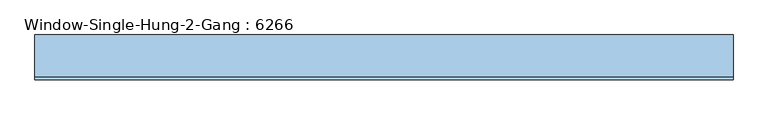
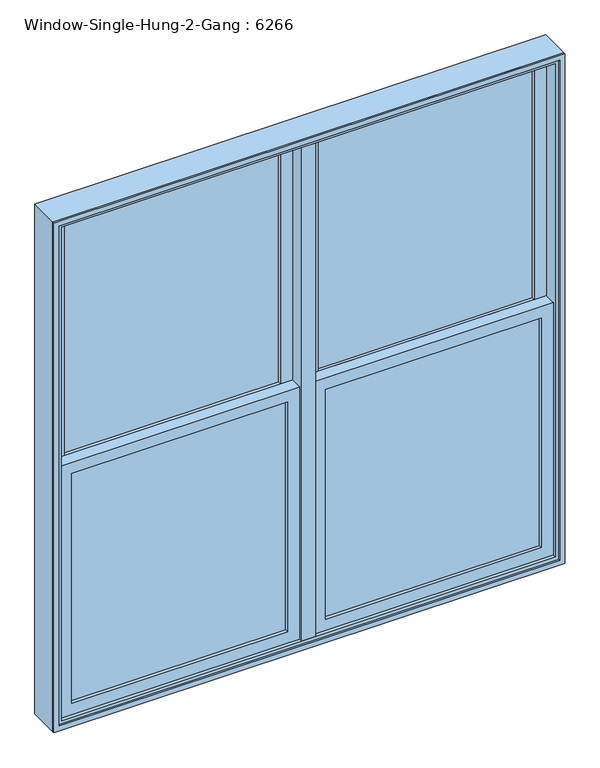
"""IFC4 building model written with IfcOpenShell, lengths in millimetres: window geometry, Window-Single-Hung-2-Gang : 6266."""

import ifcopenshell
import ifcopenshell.guid

model = None  # the IFC model being written
_history = None  # IfcOwnerHistory: only IFC2X3 demands one
_inside = {}  # id of a spatial element -> (the spatial element, [elements in it])
_under = {}  # id of a project, library or spatial element -> (it, [spatial elements below it])
_declared = {}  # id of a project -> (the project, [libraries it declares])
_typed = {}  # id of a type object -> (the type object, [elements of that type])
_made_of = {}  # id of a material, layer set ... -> (it, [elements and type objects made of it])


def new_model(schema):
    """Start an empty IFC model of exactly this schema.

    Asked for "IFC4X3", IfcOpenShell would pick the latest addendum, in which some entities
    have other attributes; the version numbers below select the first issue.
    IFC2X3 requires an IfcOwnerHistory on every rooted entity: one is made here for all.
    """
    global model, _history
    if schema == "IFC4X3":
        model = ifcopenshell.file(schema_version=(4, 3, 0, 0))
    else:
        model = ifcopenshell.file(schema=schema)
    _inside.clear()
    _under.clear()
    _declared.clear()
    _typed.clear()
    _made_of.clear()
    _history = None
    if model.schema == "IFC2X3":
        org = make("IfcOrganization", Name="unknown")
        user = make(
            "IfcPersonAndOrganization",
            ThePerson=make("IfcPerson", FamilyName="unknown"),
            TheOrganization=org,
        )
        app = make(
            "IfcApplication",
            ApplicationDeveloper=org,
            Version="unknown",
            ApplicationFullName="unknown",
            ApplicationIdentifier="unknown",
        )
        _history = make(
            "IfcOwnerHistory",
            OwningUser=user,
            OwningApplication=app,
            ChangeAction="ADDED",
            CreationDate=0,
        )
    return model


def make(cls, **values):
    """One entity of the class cls with the attributes given. An attribute that is None is left unset."""
    return model.create_entity(
        cls, **{name: value for name, value in values.items() if value is not None}
    )


def rooted(cls, **values):
    """An entity with a GlobalId (a new one), such as an element, a storey or a relation."""
    return make(cls, GlobalId=ifcopenshell.guid.new(), OwnerHistory=_history, **values)


def si_unit(unit_type, name, prefix=None):
    """IfcSIUnit, for example si_unit("LENGTHUNIT", "METRE", prefix="MILLI")."""
    return make("IfcSIUnit", UnitType=unit_type, Prefix=prefix, Name=name)


def assignment(units):
    """IfcUnitAssignment: the units of a project."""
    return None if units is None else make("IfcUnitAssignment", Units=units)


def point(xyz):
    """IfcCartesianPoint."""
    return None if xyz is None else make("IfcCartesianPoint", Coordinates=xyz)


def direction(xyz):
    """IfcDirection."""
    return None if xyz is None else make("IfcDirection", DirectionRatios=xyz)


def frame(location, z_axis=None, x_axis=None):
    """IfcAxis2Placement3D, a coordinate frame: its origin and axes. An axis left out is left unset."""
    return make(
        "IfcAxis2Placement3D",
        Location=point(location),
        Axis=direction(z_axis),
        RefDirection=direction(x_axis),
    )


def origin():
    """The frame at (0, 0, 0) with its axes left unset."""
    return frame((0.0, 0.0, 0.0))


def place(relative_to, where):
    """IfcLocalPlacement: puts the frame where relative to a parent placement (None: the world)."""
    return make(
        "IfcLocalPlacement", PlacementRelTo=relative_to, RelativePlacement=where
    )


def context(
    kind, dimensions, precision=None, world=None, true_north=None, identifier=None
):
    """IfcGeometricRepresentationContext, for example the 3D "Model" context."""
    return make(
        "IfcGeometricRepresentationContext",
        ContextIdentifier=identifier,
        ContextType=kind,
        CoordinateSpaceDimension=dimensions,
        Precision=precision,
        WorldCoordinateSystem=world,
        TrueNorth=true_north,
    )


def project(units=None, contexts=None):
    """IfcProject with its units and contexts."""
    return rooted(
        "IfcProject",
        Name="project",
        RepresentationContexts=contexts,
        UnitsInContext=assignment(units),
    )


def spatial(cls, under=None, at=None, **own):
    """A site, building, storey or space (cls), placed at a placement, below another one or the project."""
    s = rooted(cls, ObjectPlacement=at, **own)
    if under is not None:
        _under.setdefault(under.id(), (under, []))[1].append(s)
    return s


def polyline(points):
    """IfcPolyline through the points."""
    return make("IfcPolyline", Points=[point(p) for p in points])


def outline(outer, holes=None, kind="AREA"):
    """IfcArbitraryClosedProfileDef: a profile drawn as a closed curve; with holes, ...WithVoids."""
    if holes is None:
        return make("IfcArbitraryClosedProfileDef", ProfileType=kind, OuterCurve=outer)
    return make(
        "IfcArbitraryProfileDefWithVoids",
        ProfileType=kind,
        OuterCurve=outer,
        InnerCurves=holes,
    )


def extrude(swept, where, along, depth):
    """IfcExtrudedAreaSolid: the profile swept, set in the frame where, extruded along a direction by depth."""
    return make(
        "IfcExtrudedAreaSolid",
        SweptArea=swept,
        Position=where,
        ExtrudedDirection=direction(along),
        Depth=depth,
    )


def shape(context_of_items, identifier, shape_type, items):
    """IfcShapeRepresentation: the items that make up one representation, for example the "Body"."""
    return make(
        "IfcShapeRepresentation",
        ContextOfItems=context_of_items,
        RepresentationIdentifier=identifier,
        RepresentationType=shape_type,
        Items=items,
    )


def source(mapping_origin, context_of_items, identifier, shape_type, items):
    """IfcRepresentationMap: a shape defined once, which mapped items show again and again."""
    return make(
        "IfcRepresentationMap",
        MappingOrigin=mapping_origin,
        MappedRepresentation=shape(context_of_items, identifier, shape_type, items),
    )


def transform(
    local_origin,
    x_axis=None,
    y_axis=None,
    z_axis=None,
    scale=None,
    scale2=None,
    scale3=None,
    uniform=True,
):
    """IfcCartesianTransformationOperator3D, or its non-uniform kind. x_axis, y_axis, z_axis: its Axis1, 2, 3."""
    if uniform:
        return make(
            "IfcCartesianTransformationOperator3D",
            Axis1=direction(x_axis),
            Axis2=direction(y_axis),
            LocalOrigin=point(local_origin),
            Scale=scale,
            Axis3=direction(z_axis),
        )
    return make(
        "IfcCartesianTransformationOperator3DnonUniform",
        Axis1=direction(x_axis),
        Axis2=direction(y_axis),
        LocalOrigin=point(local_origin),
        Scale=scale,
        Axis3=direction(z_axis),
        Scale2=scale2,
        Scale3=scale3,
    )


def mapped(mapping_source, mapping_target):
    """IfcMappedItem: shows the shape of a source again, moved by a transform."""
    return make(
        "IfcMappedItem", MappingSource=mapping_source, MappingTarget=mapping_target
    )


def made_of(thing, what):
    """Note that an element or type object is made of a material, layer set ...; save() writes the relation."""
    if what is not None:
        _made_of.setdefault(what.id(), (what, []))[1].append(thing)
    return thing


def element(
    cls,
    number,
    at=None,
    inside=None,
    cuts=None,
    type_object=None,
    material=None,
    context=None,
    identifier="Body",
    shape_type=None,
    held_by="IfcProductDefinitionShape",
    body=None,
    shapes=None,
    **own,
):
    """One element of the class cls, such as IfcWall. Its Tag is "e" and its number.

    at: its placement. inside: the storey or other place that contains it. cuts: it is an
    opening in that element (IfcRelVoidsElement). A single representation is given by context,
    identifier, shape_type and body (its items); several are given by shapes. held_by: the class
    of the entity that holds the representations. save() writes the other relations.
    """
    e = rooted(cls, Tag="e%d" % number, ObjectPlacement=at, **own)
    if body is not None:
        shapes = [shape(context, identifier, shape_type, body)]
    if shapes is not None:
        e.Representation = make(held_by, Representations=shapes)
    if inside is not None:
        _inside.setdefault(inside.id(), (inside, []))[1].append(e)
    if cuts is not None:
        rooted(
            "IfcRelVoidsElement", RelatingBuildingElement=cuts, RelatedOpeningElement=e
        )
    if type_object is not None:
        _typed.setdefault(type_object.id(), (type_object, []))[1].append(e)
    return made_of(e, material)


def aggregate(whole, parts):
    """IfcRelAggregates: a whole, such as a stair, and the parts it consists of."""
    return rooted("IfcRelAggregates", RelatingObject=whole, RelatedObjects=parts)


def save(model, path):
    """Write the relations noted so far, then the file.

    IfcRelAggregates (storeys below a building ...), IfcRelContainedInSpatialStructure (elements
    in a storey), IfcRelDefinesByType, IfcRelAssociatesMaterial and IfcRelDeclares: one each for
    every whole, place, type object, material and project.
    """
    for whole, parts in _under.values():
        aggregate(whole, parts)
    for where, things in _inside.values():
        rooted(
            "IfcRelContainedInSpatialStructure",
            RelatedElements=things,
            RelatingStructure=where,
        )
    for kind, things in _typed.values():
        rooted("IfcRelDefinesByType", RelatedObjects=things, RelatingType=kind)
    for what, things in _made_of.values():
        rooted("IfcRelAssociatesMaterial", RelatedObjects=things, RelatingMaterial=what)
    for by, libraries in _declared.values():
        rooted("IfcRelDeclares", RelatingContext=by, RelatedDefinitions=libraries)
    model.write(path)


def window_single_hung_2_gang_6266_7d1e7603(model_context):
    return source(origin(), model_context, "Body", "SweptSolid", [
        extrude(outline(polyline([(-69.85, 34.925), (-69.85, 28.575), (-863.6, 28.575), (-863.6, 34.925), (-69.85, 34.925)])), frame((0.0, 0.0, 1927.225), z_axis=(0.0, 0.0, 1.0), x_axis=(1.0, 0.0, 0.0)), (0.0, 0.0, 1.0), 892.175),
        extrude(outline(polyline([(-69.85, 22.225), (-69.85, 15.875), (-863.6, 15.875), (-863.6, 22.225), (-69.85, 22.225)])), frame((0.0, 0.0, 1927.225), z_axis=(0.0, 0.0, 1.0), x_axis=(1.0, 0.0, 0.0)), (0.0, 0.0, 1.0), 892.175),
        extrude(outline(polyline([(-69.85, -9.525), (-69.85, -15.875), (-863.6, -15.875), (-863.6, -9.525), (-69.85, -9.525)])), frame((0.0, 0.0, 990.6), z_axis=(0.0, 0.0, 1.0), x_axis=(1.0, 0.0, 0.0)), (0.0, 0.0, 1.0), 892.175),
        extrude(outline(polyline([(-69.85, -22.225), (-69.85, -28.575), (-863.6, -28.575), (-863.6, -22.225), (-69.85, -22.225)])), frame((0.0, 0.0, 990.6), z_axis=(0.0, 0.0, 1.0), x_axis=(1.0, 0.0, 0.0)), (0.0, 0.0, 1.0), 892.175),
        extrude(outline(polyline([(946.15, -25.4), (1927.225, -25.4), (1927.225, -908.05), (946.15, -908.05), (946.15, -25.4)]), holes=[polyline([(990.6, -69.85), (990.6, -863.6), (1882.775, -863.6), (1882.775, -69.85), (990.6, -69.85)])]), frame((0.0, -41.275, 0.0), z_axis=(0.0, 1.0, 0.0), x_axis=(0.0, 0.0, 1.0)), (0.0, 0.0, 1.0), 44.45),
        extrude(outline(polyline([(1882.775, -25.4), (2863.85, -25.4), (2863.85, -908.05), (1882.775, -908.05), (1882.775, -25.4)]), holes=[polyline([(1927.225, -69.85), (1927.225, -863.6), (2819.4, -863.6), (2819.4, -69.85), (1927.225, -69.85)])]), frame((0.0, 3.175, 0.0), z_axis=(0.0, 1.0, 0.0), x_axis=(0.0, 0.0, 1.0)), (0.0, 0.0, 1.0), 44.45),
        extrude(outline(polyline([(863.6, 34.925), (863.6, 28.575), (69.85, 28.575), (69.85, 34.925), (863.6, 34.925)])), frame((0.0, 0.0, 1927.225), z_axis=(0.0, 0.0, 1.0), x_axis=(1.0, 0.0, 0.0)), (0.0, 0.0, 1.0), 892.175),
        extrude(outline(polyline([(863.6, 22.225), (863.6, 15.875), (69.85, 15.875), (69.85, 22.225), (863.6, 22.225)])), frame((0.0, 0.0, 1927.225), z_axis=(0.0, 0.0, 1.0), x_axis=(1.0, 0.0, 0.0)), (0.0, 0.0, 1.0), 892.175),
        extrude(outline(polyline([(863.6, -9.525), (863.6, -15.875), (69.85, -15.875), (69.85, -9.525), (863.6, -9.525)])), frame((0.0, 0.0, 990.6), z_axis=(0.0, 0.0, 1.0), x_axis=(1.0, 0.0, 0.0)), (0.0, 0.0, 1.0), 892.175),
        extrude(outline(polyline([(863.6, -22.225), (863.6, -28.575), (69.85, -28.575), (69.85, -22.225), (863.6, -22.225)])), frame((0.0, 0.0, 990.6), z_axis=(0.0, 0.0, 1.0), x_axis=(1.0, 0.0, 0.0)), (0.0, 0.0, 1.0), 892.175),
        extrude(outline(polyline([(946.15, 908.05), (1927.225, 908.05), (1927.225, 25.4), (946.15, 25.4), (946.15, 908.05)]), holes=[polyline([(990.6, 863.6), (990.6, 69.85), (1882.775, 69.85), (1882.775, 863.6), (990.6, 863.6)])]), frame((0.0, -41.275, 0.0), z_axis=(0.0, 1.0, 0.0), x_axis=(0.0, 0.0, 1.0)), (0.0, 0.0, 1.0), 44.45),
        extrude(outline(polyline([(1882.775, 908.05), (2863.85, 908.05), (2863.85, 25.4), (1882.775, 25.4), (1882.775, 908.05)]), holes=[polyline([(1927.225, 863.6), (1927.225, 69.85), (2819.4, 69.85), (2819.4, 863.6), (1927.225, 863.6)])]), frame((0.0, 3.175, 0.0), z_axis=(0.0, 1.0, 0.0), x_axis=(0.0, 0.0, 1.0)), (0.0, 0.0, 1.0), 44.45),
        extrude(outline(polyline([(2895.6, 939.8), (2895.6, -939.8), (914.4, -939.8), (914.4, 939.8), (2895.6, 939.8)]), holes=[polyline([(2876.55, 920.75), (933.45, 920.75), (933.45, -920.75), (2876.55, -920.75), (2876.55, 920.75)])]), frame((0.0, -60.325, 0.0), z_axis=(0.0, 1.0, 0.0), x_axis=(0.0, 0.0, 1.0)), (0.0, 0.0, 1.0), 6.35),
        extrude(outline(polyline([(2895.6, -939.8), (914.4, -939.8), (914.4, 939.8), (2895.6, 939.8), (2895.6, -939.8)]), holes=[polyline([(2863.85, 908.05), (946.15, 908.05), (946.15, -908.05), (2863.85, -908.05), (2863.85, 908.05)])]), frame((0.0, -53.975, 0.0), z_axis=(0.0, 1.0, 0.0), x_axis=(0.0, 0.0, 1.0)), (0.0, 0.0, 1.0), 114.3),
        extrude(outline(polyline([(25.4, -53.975), (-25.4, -53.975), (-25.4, 60.325), (25.4, 60.325), (25.4, -53.975)])), frame((0.0, 0.0, 946.15), z_axis=(0.0, 0.0, 1.0), x_axis=(1.0, 0.0, 0.0)), (0.0, 0.0, 1.0), 1917.7),
    ])


if __name__ == "__main__":
    model = new_model("IFC4")
    model_context = context("Model", 3, world=origin())
    ifc_project = project(units=[si_unit("LENGTHUNIT", "METRE", prefix="MILLI")], contexts=[model_context])
    site = spatial("IfcSite", under=ifc_project)
    building = spatial("IfcBuilding", under=site)
    placement = place(None, origin())
    window_single_hung_2_gang_6266_shape = window_single_hung_2_gang_6266_7d1e7603(model_context)
    element("IfcWindow", 1, ObjectType="Window-Single-Hung-2-Gang : 6266", at=placement, inside=building, context=model_context, shape_type="MappedRepresentation", body=[
        mapped(window_single_hung_2_gang_6266_shape, transform((0.0, 0.0, 0.0), x_axis=(1.0, 0.0, 0.0), y_axis=(0.0, 1.0, 0.0), z_axis=(0.0, 0.0, 1.0))),
    ])
    save(model, "model.ifc")
